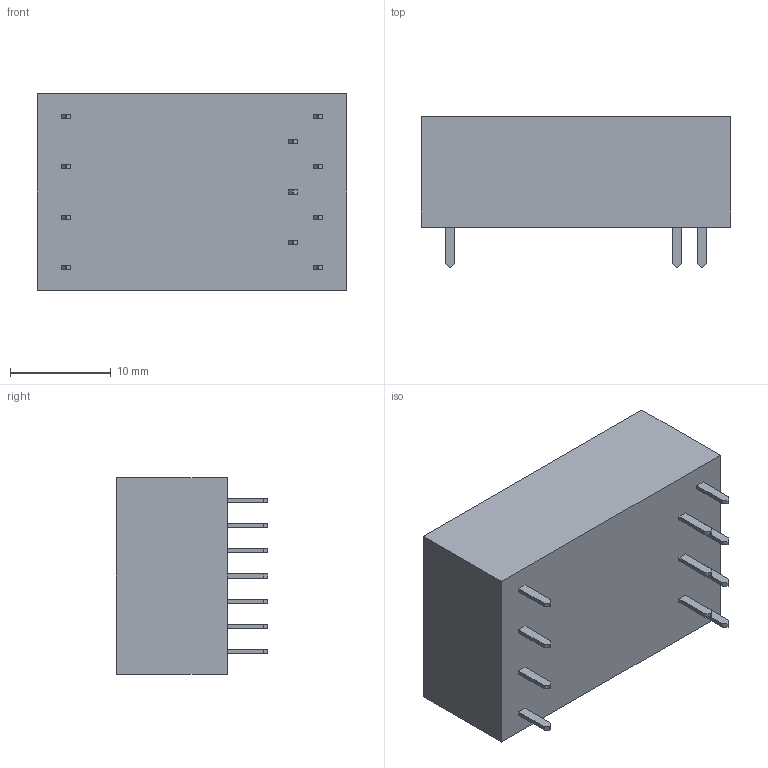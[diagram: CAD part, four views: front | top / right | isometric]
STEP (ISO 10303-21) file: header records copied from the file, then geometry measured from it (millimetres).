
FILE_DESCRIPTION (( 'STEP AP203' ), '1' );
FILE_NAME ('RD3RC2.STEP', '2019-09-12T16:47:36', ( '' ), ( '' ), 'SwSTEP 2.0', 'SolidWorks 2012', '' );
FILE_SCHEMA (( 'CONFIG_CONTROL_DESIGN' ));
Length unit declared in the file: millimetre
Products named in the file (1): RD3RC2
Bounding box: 30.7 x 15 x 19.5 mm (x, y, z)
Volume: 6600.3 mm3; surface area: 2410.5 mm2
Topology: 1 solids, 1 shells, 83 faces, 210 edges, 140 vertices
Faces by surface type: plane 83
Entity records: 2521 total; most frequent: CARTESIAN_POINT 434, ORIENTED_EDGE 420, DIRECTION 378, LINE 210, VECTOR 210, EDGE_CURVE 210, VERTEX_POINT 140, EDGE_LOOP 94
